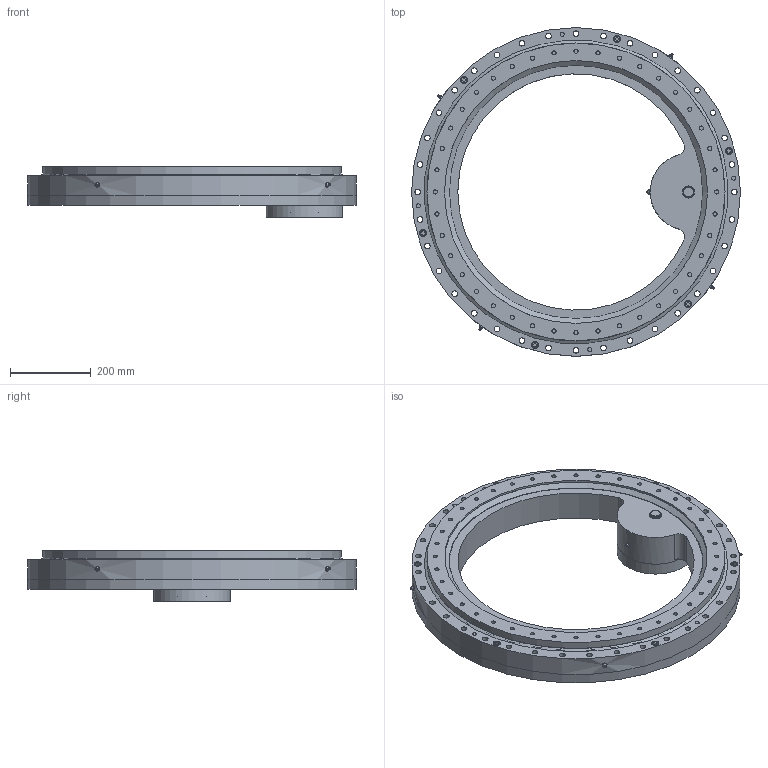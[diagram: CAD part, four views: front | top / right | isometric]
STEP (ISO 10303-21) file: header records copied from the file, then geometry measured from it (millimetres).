
FILE_DESCRIPTION(/* description */ ('STEP AP214'),/* implementation_level */ '2;1');
FILE_NAME(/* name */ '\\Serwer-ad\dnia$\dnia_tomasz_tb\Desktop\Tomcio\1. Cenniki + katalogi + materiały\U- Transmission\Katalogi 2023\Wersja NATECH DRV\Inner gear - slew drive\Our inner gear slew drive STEP\PT-M-0741-I-B-S.stp',/* time_stamp */ '2024-04-30T10:35:11+02:00',/* author */ ('dnia_tomasz_tb'),/* organization */ (''),/* preprocessor_version */ 'ST-DEVELOPER v19',/* originating_system */ 'Autodesk Inventor 2023',/* authorisation */ '');
FILE_SCHEMA (('AUTOMOTIVE_DESIGN { 1 0 10303 214 3 1 1 }'));
Length unit declared in the file: millimetre
Products named in the file (1): PT-M-0741-I-B-S
Bounding box: 815 x 815 x 126 mm (x, y, z)
Surface area: 1401838.7 mm2 (no closed solid volume)
Topology: 0 solids, 44 shells, 359 faces, 1162 edges, 824 vertices
Faces by surface type: plane 158, cylinder 155, torus 26, cone 15, sphere 5
Full cylindrical faces by diameter (mm): 2 x2, 8.5 x8, 10.2 x40, 14 x36, 16 x36, 18 x14, 26 x1, 30 x1, 65 x1, 80 x1, 88.333 x1, 130 x1, 190 x1, 652 x1, 739 x1, 815 x2
Entity records: 15347 total; most frequent: CARTESIAN_POINT 3898, DIRECTION 2424, ORIENTED_EDGE 1842, EDGE_CURVE 1150, AXIS2_PLACEMENT_3D 949, VERTEX_POINT 824, EDGE_LOOP 656, CIRCLE 589
